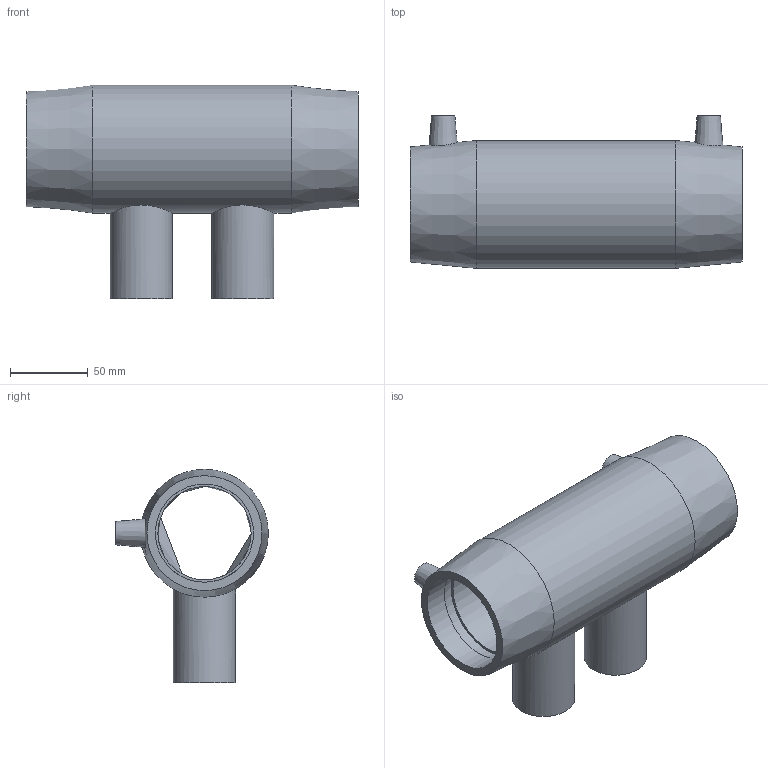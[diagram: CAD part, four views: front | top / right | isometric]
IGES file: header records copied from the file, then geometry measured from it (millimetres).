
Global section: file name: 492404063040.ipt; native system: Autodesk Inventor 2015; preprocessor: unknown; author: KIM; date: 20171106.093931; units: millimetre
Bounding box: 213 x 98 x 137 mm (x, y, z)
Volume: 485223.5 mm3; surface area: 126373.2 mm2
Topology: 1 solids, 1 shells, 34 faces, 82 edges, 55 vertices
Faces by surface type: plane 14, revolution 11, cylinder 5, cone 4
Full cylindrical faces by diameter (mm): 4 x2, 40 x2, 82 x1
